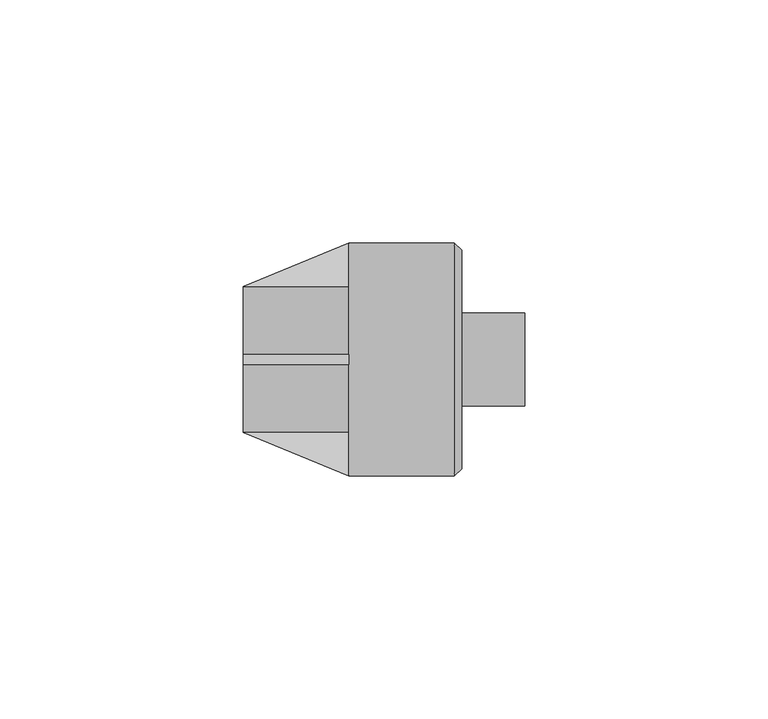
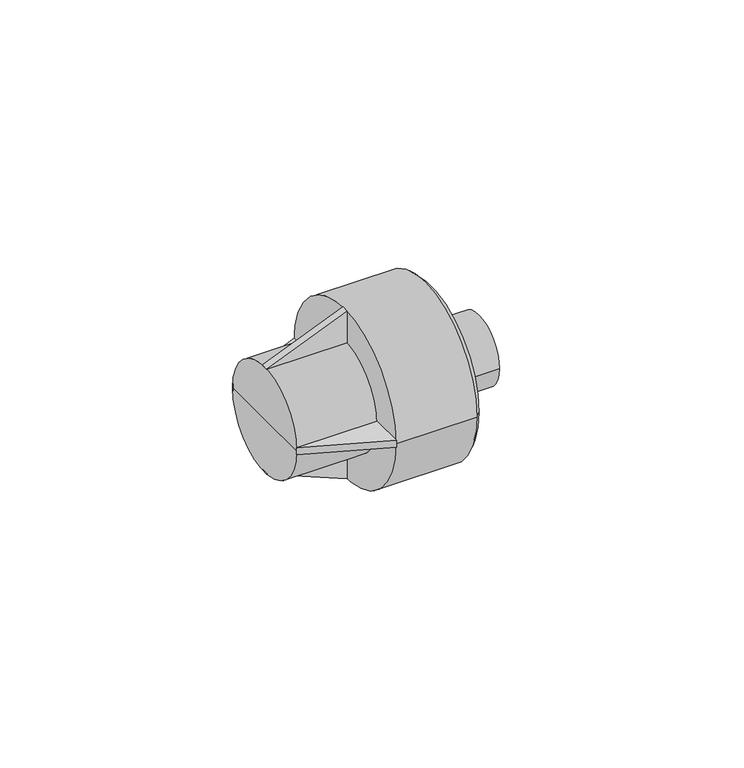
"""IFC4 building model written with IfcOpenShell, lengths in millimetres: pipe fitting geometry, KAN-therm PP mufa gz 3_4 : KAN-therm PP mufa gz 3_4."""

from ifc_helpers import new_model, si_unit, frame, origin, place, context, project, spatial, polyline, circle_curve, outline, extrude, source, transform, mapped, element, save
from ifc_brep_helpers import plane_surface, cylinder_surface, revolved_surface, advanced_brep


def pipe_fitting_8b290e61(model_context):
    return source(origin(), model_context, "Body", "SolidModel", [
        extrude(outline(polyline([(15.0, -14.5), (15.0, 7.25), (24.0, 7.25), (15.0, -14.5)])), frame((0.0, -1.0, 0.0), z_axis=(0.0, 1.0, 0.0), x_axis=(0.0, 0.0, 1.0)), (0.0, 0.0, 1.0), 2.0),
        extrude(outline(polyline([(-15.0, -14.5), (-24.0, 7.25), (-15.0, 7.25), (-15.0, -14.5)])), frame((0.0, -1.0, 0.0), z_axis=(0.0, 1.0, 0.0), x_axis=(0.0, 0.0, 1.0)), (0.0, 0.0, 1.0), 2.0),
        extrude(outline(polyline([(7.25, 15.0), (-14.5, 15.0), (7.25, 24.0), (7.25, 15.0)])), frame((0.0, 0.0, -1.0), z_axis=(0.0, 0.0, 1.0), x_axis=(1.0, 0.0, 0.0)), (0.0, 0.0, 1.0), 2.0),
        extrude(outline(polyline([(-14.5, -15.0), (7.25, -15.0), (7.25, -24.0), (-14.5, -15.0)])), frame((0.0, 0.0, -1.0), z_axis=(0.0, 0.0, 1.0), x_axis=(1.0, 0.0, 0.0)), (0.0, 0.0, 1.0), 2.0),
        advanced_brep(
        [(43.5, -9.525, 0.0), (43.5, 9.525, 0.0), (43.5, 0.0, 0.0), (7.25, -24.0, 0.0), (7.25, 24.0, 0.0), (29.0, 24.0, 0.0), (29.0, -24.0, 0.0), (-14.5, 0.0, 0.0), (-14.5, 15.0, 0.0), (-14.5, -15.0, 0.0), (7.25, -15.0, 0.0), (7.25, 15.0, 0.0), (30.5, -9.525, 0.0), (30.5, 9.525, 0.0), (30.5, -22.5, 0.0), (30.5, 22.5, 0.0)],
        [
            (0, 1, circle_curve(frame((43.5, 0.0, 0.0), z_axis=(1.0, 0.0, 0.0), x_axis=(0.0, 1.0, 0.0)), 9.525)),
            (1, 2),
            (2, 0),
            (1, 0, circle_curve(frame((43.5, 0.0, 0.0), z_axis=(1.0, 0.0, 0.0), x_axis=(0.0, 1.0, 0.0)), 9.525)),
            (3, 4, circle_curve(frame((7.25, 0.0, 0.0), z_axis=(1.0, 0.0, 0.0), x_axis=(0.0, 1.0, 0.0)), 24.0)),
            (4, 5),
            (5, 6, circle_curve(frame((29.0, 0.0, 0.0), z_axis=(-1.0, 0.0, 0.0), x_axis=(0.0, 1.0, 0.0)), 24.0)),
            (6, 3),
            (4, 3, circle_curve(frame((7.25, 0.0, 0.0), z_axis=(1.0, 0.0, 0.0), x_axis=(0.0, 1.0, 0.0)), 24.0)),
            (6, 5, circle_curve(frame((29.0, 0.0, 0.0), z_axis=(-1.0, 0.0, 0.0), x_axis=(0.0, 1.0, 0.0)), 24.0)),
            (7, 8),
            (8, 9, circle_curve(frame((-14.5, 0.0, 0.0), z_axis=(-1.0, 0.0, 0.0), x_axis=(0.0, 1.0, 0.0)), 15.0)),
            (9, 7),
            (9, 8, circle_curve(frame((-14.5, 0.0, 0.0), z_axis=(-1.0, 0.0, 0.0), x_axis=(0.0, 1.0, 0.0)), 15.0)),
            (10, 11, circle_curve(frame((7.25, 0.0, 0.0), z_axis=(1.0, 0.0, 0.0), x_axis=(0.0, 1.0, 0.0)), 15.0)),
            (11, 4),
            (3, 10),
            (11, 10, circle_curve(frame((7.25, 0.0, 0.0), z_axis=(1.0, 0.0, 0.0), x_axis=(0.0, 1.0, 0.0)), 15.0)),
            (8, 11),
            (10, 9),
            (12, 13, circle_curve(frame((30.5, 0.0, 0.0), z_axis=(1.0, 0.0, 0.0), x_axis=(0.0, 1.0, 0.0)), 9.525)),
            (13, 1),
            (0, 12),
            (13, 12, circle_curve(frame((30.5, 0.0, 0.0), z_axis=(1.0, 0.0, 0.0), x_axis=(0.0, 1.0, 0.0)), 9.525)),
            (14, 15, circle_curve(frame((30.5, 0.0, 0.0), z_axis=(1.0, 0.0, 0.0), x_axis=(0.0, 1.0, 0.0)), 22.5)),
            (15, 13),
            (12, 14),
            (15, 14, circle_curve(frame((30.5, 0.0, 0.0), z_axis=(1.0, 0.0, 0.0), x_axis=(0.0, 1.0, 0.0)), 22.5)),
            (5, 15),
            (14, 6),
        ],
        [
            plane_surface(frame((43.5, 0.0, 0.0), z_axis=(1.0, 0.0, 0.0), x_axis=(0.0, 1.0, 0.0))),
            cylinder_surface(frame((1357.242668, 0.0, 0.0), z_axis=(-1.0, 0.0, 0.0), x_axis=(0.0, 1.0, 0.0)), 24.0),
            plane_surface(frame((-14.5, 0.0, 0.0), z_axis=(-1.0, 0.0, 0.0), x_axis=(0.0, 1.0, 0.0))),
            plane_surface(frame((7.25, 0.0, 0.0), z_axis=(-1.0, 0.0, 0.0), x_axis=(0.0, 1.0, 0.0))),
            cylinder_surface(frame((1357.242668, 0.0, 0.0), z_axis=(-1.0, 0.0, 0.0), x_axis=(0.0, 1.0, 0.0)), 15.0),
            cylinder_surface(frame((1357.242668, 0.0, 0.0), z_axis=(-1.0, 0.0, 0.0), x_axis=(0.0, 1.0, 0.0)), 9.525),
            plane_surface(frame((30.5, 0.0, 0.0), z_axis=(1.0, 0.0, 0.0), x_axis=(0.0, 1.0, 0.0))),
            revolved_surface(polyline([(30.5, 22.5, 0.0), (29.0, 24.0, 0.0)]), (1357.242668, 0.0, 0.0), (-1.0, 0.0, 0.0)),
        ],
        [
            (0, [[1, 2, 3]]),
            (0, [[4, -3, -2]]),
            (1, [[5, 6, 7, 8]]),
            (1, [[9, -8, 10, -6]]),
            (2, [[11, 12, 13]]),
            (2, [[-13, 14, -11]]),
            (3, [[15, 16, -5, 17]]),
            (3, [[18, -17, -9, -16]]),
            (4, [[-12, 19, -15, 20]]),
            (4, [[-14, -20, -18, -19]]),
            (5, [[21, 22, -1, 23]]),
            (5, [[24, -23, -4, -22]]),
            (6, [[25, 26, -21, 27]]),
            (6, [[28, -27, -24, -26]]),
            (7, [[-7, 29, -25, 30]]),
            (7, [[-10, -30, -28, -29]]),
        ],
    ),
    ])


if __name__ == "__main__":
    model = new_model("IFC4")
    model_context = context("Model", 3, world=origin())
    ifc_project = project(units=[si_unit("LENGTHUNIT", "METRE", prefix="MILLI")], contexts=[model_context])
    site = spatial("IfcSite", under=ifc_project)
    building = spatial("IfcBuilding", under=site)
    placement = place(None, origin())
    pipe_fitting_shape = pipe_fitting_8b290e61(model_context)
    element("IfcPipeFitting", 1, ObjectType="KAN-therm PP mufa gz 3_4 : KAN-therm PP mufa gz 3_4", at=placement, inside=building, context=model_context, shape_type="MappedRepresentation", body=[
        mapped(pipe_fitting_shape, transform((0.0, 0.0, 0.0), x_axis=(1.0, 0.0, 0.0), y_axis=(0.0, 1.0, 0.0), z_axis=(0.0, 0.0, 1.0))),
    ])
    save(model, "model.ifc")
